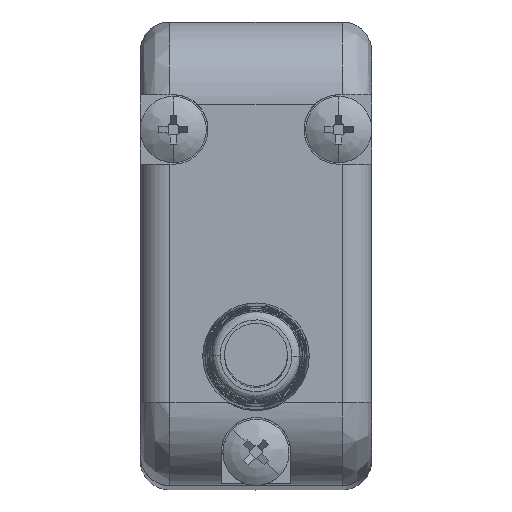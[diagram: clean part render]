
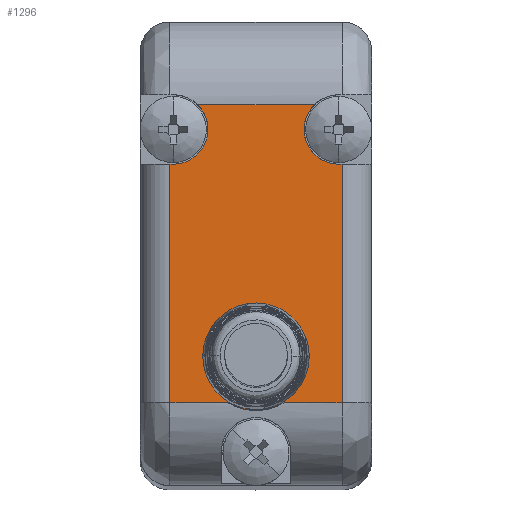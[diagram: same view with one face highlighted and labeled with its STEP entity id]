
A CAD part, top view. The second image highlights one B-rep face of the part: STEP entity #1296.
In plain terms, the highlighted planar face has unit normal (0, 0, 1).
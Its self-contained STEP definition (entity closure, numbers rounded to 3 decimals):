
#26 = CARTESIAN_POINT ( 'NONE',  ( 37.93, 8.575, 58.281 ) ) ;
#38 = EDGE_CURVE ( 'NONE', #6906, #7569, #7157, .T. ) ;
#143 = DIRECTION ( 'NONE',  ( 0., 0., -1. ) ) ;
#183 = CARTESIAN_POINT ( 'NONE',  ( 37.93, -0.425, 58.281 ) ) ;
#193 = DIRECTION ( 'NONE',  ( 0., 1., 0. ) ) ;
#276 = ORIENTED_EDGE ( 'NONE', *, *, #10139, .T. ) ;
#282 = EDGE_LOOP ( 'NONE', ( #9560, #6132 ) ) ;
#359 = DIRECTION ( 'NONE',  ( 0., 0., -1. ) ) ;
#383 = CARTESIAN_POINT ( 'NONE',  ( 48.33, 8.575, 58.281 ) ) ;
#483 = DIRECTION ( 'NONE',  ( -1., 0., 0. ) ) ;
#693 = AXIS2_PLACEMENT_3D ( 'NONE', #8354, #143, #3908 ) ;
#729 = DIRECTION ( 'NONE',  ( 0., 0., 1. ) ) ;
#776 = VERTEX_POINT ( 'NONE', #11369 ) ;
#945 = VERTEX_POINT ( 'NONE', #8670 ) ;
#970 = DIRECTION ( 'NONE',  ( -1., 0., 0. ) ) ;
#1143 = DIRECTION ( 'NONE',  ( -1., 0., 0. ) ) ;
#1222 = AXIS2_PLACEMENT_3D ( 'NONE', #1274, #7619, #1384 ) ;
#1274 = CARTESIAN_POINT ( 'NONE',  ( 43.13, 2.375, 58.281 ) ) ;
#1296 = ADVANCED_FACE ( 'NONE', ( #6594, #1869 ), #5527, .F. ) ;
#1321 = EDGE_CURVE ( 'NONE', #6589, #9214, #2036, .T. ) ;
#1384 = DIRECTION ( 'NONE',  ( -1., 0., 0. ) ) ;
#1641 = DIRECTION ( 'NONE',  ( 1., 0., 0. ) ) ;
#1758 = DIRECTION ( 'NONE',  ( 0., 0., 1. ) ) ;
#1869 = FACE_BOUND ( 'NONE', #282, .T. ) ;
#2008 = CARTESIAN_POINT ( 'NONE',  ( 44.828, -0.425, 58.281 ) ) ;
#2036 = LINE ( 'NONE', #4625, #9625 ) ;
#2039 = CARTESIAN_POINT ( 'NONE',  ( 46.349, 2.34, 58.281 ) ) ;
#2120 = DIRECTION ( 'NONE',  ( -1., 0., 0. ) ) ;
#2386 = ORIENTED_EDGE ( 'NONE', *, *, #9967, .T. ) ;
#2415 = CIRCLE ( 'NONE', #2986, 2.1 ) ;
#2471 = CARTESIAN_POINT ( 'NONE',  ( 38.13, 16.075, 58.281 ) ) ;
#2571 = VERTEX_POINT ( 'NONE', #3307 ) ;
#2649 = DIRECTION ( 'NONE',  ( 1., 0., 0. ) ) ;
#2702 = DIRECTION ( 'NONE',  ( 0., 0., -1. ) ) ;
#2898 = VECTOR ( 'NONE', #5058, 1000. ) ;
#2902 = CIRCLE ( 'NONE', #7130, 2.1 ) ;
#2986 = AXIS2_PLACEMENT_3D ( 'NONE', #11653, #729, #2649 ) ;
#3065 = CARTESIAN_POINT ( 'NONE',  ( 43.13, -0.425, 58.281 ) ) ;
#3114 = CARTESIAN_POINT ( 'NONE',  ( 49.13, 13.975, 58.281 ) ) ;
#3180 = EDGE_CURVE ( 'NONE', #2571, #4608, #7629, .T. ) ;
#3221 = EDGE_CURVE ( 'NONE', #4608, #776, #11055, .T. ) ;
#3233 = CARTESIAN_POINT ( 'NONE',  ( 38.13, 16.075, 58.281 ) ) ;
#3307 = CARTESIAN_POINT ( 'NONE',  ( 41.431, -0.425, 58.281 ) ) ;
#3375 = CARTESIAN_POINT ( 'NONE',  ( 38.13, 13.975, 58.281 ) ) ;
#3669 = VECTOR ( 'NONE', #8996, 1000. ) ;
#3806 = CARTESIAN_POINT ( 'NONE',  ( 43.13, -0.425, 58.281 ) ) ;
#3815 = EDGE_CURVE ( 'NONE', #9839, #11514, #7579, .T. ) ;
#3908 = DIRECTION ( 'NONE',  ( -1., 0., 0. ) ) ;
#4021 = DIRECTION ( 'NONE',  ( 1., 0., 0. ) ) ;
#4256 = EDGE_CURVE ( 'NONE', #7569, #6906, #5856, .T. ) ;
#4408 = ORIENTED_EDGE ( 'NONE', *, *, #5430, .F. ) ;
#4442 = CIRCLE ( 'NONE', #10759, 2.1 ) ;
#4521 = CARTESIAN_POINT ( 'NONE',  ( 48.33, -0.425, 58.281 ) ) ;
#4561 = CARTESIAN_POINT ( 'NONE',  ( 40.23, 16.075, 58.281 ) ) ;
#4608 = VERTEX_POINT ( 'NONE', #183 ) ;
#4625 = CARTESIAN_POINT ( 'NONE',  ( 43.13, 17.575, 58.281 ) ) ;
#5035 = AXIS2_PLACEMENT_3D ( 'NONE', #9223, #2702, #970 ) ;
#5058 = DIRECTION ( 'NONE',  ( 0., -1., 0. ) ) ;
#5081 = VECTOR ( 'NONE', #10383, 1000. ) ;
#5430 = EDGE_CURVE ( 'NONE', #11514, #2571, #7960, .T. ) ;
#5527 = PLANE ( 'NONE',  #5035 ) ;
#5797 = CARTESIAN_POINT ( 'NONE',  ( 39.91, 2.411, 58.281 ) ) ;
#5856 = CIRCLE ( 'NONE', #693, 3.219 ) ;
#6013 = CARTESIAN_POINT ( 'NONE',  ( 48.13, 13.975, 58.281 ) ) ;
#6132 = ORIENTED_EDGE ( 'NONE', *, *, #4256, .T. ) ;
#6237 = EDGE_LOOP ( 'NONE', ( #11182, #4408, #6955, #10770, #2386, #9945, #11640, #6822, #11563, #276, #11655 ) ) ;
#6589 = VERTEX_POINT ( 'NONE', #11693 ) ;
#6593 = CARTESIAN_POINT ( 'NONE',  ( 43.13, 2.375, 58.281 ) ) ;
#6594 = FACE_OUTER_BOUND ( 'NONE', #6237, .T. ) ;
#6615 = VECTOR ( 'NONE', #193, 1000. ) ;
#6747 = CARTESIAN_POINT ( 'NONE',  ( 46.66, 17.575, 58.281 ) ) ;
#6822 = ORIENTED_EDGE ( 'NONE', *, *, #11042, .F. ) ;
#6894 = DIRECTION ( 'NONE',  ( 0., 0., 1. ) ) ;
#6906 = VERTEX_POINT ( 'NONE', #5797 ) ;
#6955 = ORIENTED_EDGE ( 'NONE', *, *, #3815, .F. ) ;
#7130 = AXIS2_PLACEMENT_3D ( 'NONE', #3233, #6894, #4021 ) ;
#7157 = CIRCLE ( 'NONE', #1222, 3.219 ) ;
#7260 = EDGE_CURVE ( 'NONE', #9214, #10752, #2415, .T. ) ;
#7308 = VECTOR ( 'NONE', #483, 1000. ) ;
#7569 = VERTEX_POINT ( 'NONE', #2039 ) ;
#7579 = LINE ( 'NONE', #3806, #9303 ) ;
#7619 = DIRECTION ( 'NONE',  ( 0., 0., -1. ) ) ;
#7629 = LINE ( 'NONE', #3065, #5081 ) ;
#7755 = VERTEX_POINT ( 'NONE', #4561 ) ;
#7960 = CIRCLE ( 'NONE', #8544, 3.275 ) ;
#8354 = CARTESIAN_POINT ( 'NONE',  ( 43.13, 2.375, 58.281 ) ) ;
#8544 = AXIS2_PLACEMENT_3D ( 'NONE', #6593, #359, #1143 ) ;
#8670 = CARTESIAN_POINT ( 'NONE',  ( 48.33, 13.975, 58.281 ) ) ;
#8812 = CARTESIAN_POINT ( 'NONE',  ( 37.13, 13.975, 58.281 ) ) ;
#8996 = DIRECTION ( 'NONE',  ( -1., 0., 0. ) ) ;
#9214 = VERTEX_POINT ( 'NONE', #6747 ) ;
#9223 = CARTESIAN_POINT ( 'NONE',  ( 48.33, -0.425, 58.281 ) ) ;
#9303 = VECTOR ( 'NONE', #2120, 1000. ) ;
#9560 = ORIENTED_EDGE ( 'NONE', *, *, #38, .T. ) ;
#9585 = LINE ( 'NONE', #3114, #7308 ) ;
#9606 = LINE ( 'NONE', #383, #2898 ) ;
#9625 = VECTOR ( 'NONE', #10186, 1000. ) ;
#9815 = VERTEX_POINT ( 'NONE', #3375 ) ;
#9839 = VERTEX_POINT ( 'NONE', #4521 ) ;
#9945 = ORIENTED_EDGE ( 'NONE', *, *, #7260, .F. ) ;
#9967 = EDGE_CURVE ( 'NONE', #945, #10752, #9585, .T. ) ;
#10139 = EDGE_CURVE ( 'NONE', #9815, #776, #11644, .T. ) ;
#10186 = DIRECTION ( 'NONE',  ( 1., 0., 0. ) ) ;
#10383 = DIRECTION ( 'NONE',  ( -1., 0., 0. ) ) ;
#10752 = VERTEX_POINT ( 'NONE', #6013 ) ;
#10759 = AXIS2_PLACEMENT_3D ( 'NONE', #2471, #1758, #1641 ) ;
#10770 = ORIENTED_EDGE ( 'NONE', *, *, #10810, .F. ) ;
#10810 = EDGE_CURVE ( 'NONE', #945, #9839, #9606, .T. ) ;
#10916 = EDGE_CURVE ( 'NONE', #9815, #7755, #4442, .T. ) ;
#11042 = EDGE_CURVE ( 'NONE', #7755, #6589, #2902, .T. ) ;
#11055 = LINE ( 'NONE', #26, #6615 ) ;
#11182 = ORIENTED_EDGE ( 'NONE', *, *, #3180, .F. ) ;
#11369 = CARTESIAN_POINT ( 'NONE',  ( 37.93, 13.975, 58.281 ) ) ;
#11514 = VERTEX_POINT ( 'NONE', #2008 ) ;
#11563 = ORIENTED_EDGE ( 'NONE', *, *, #10916, .F. ) ;
#11640 = ORIENTED_EDGE ( 'NONE', *, *, #1321, .F. ) ;
#11644 = LINE ( 'NONE', #8812, #3669 ) ;
#11653 = CARTESIAN_POINT ( 'NONE',  ( 48.13, 16.075, 58.281 ) ) ;
#11655 = ORIENTED_EDGE ( 'NONE', *, *, #3221, .F. ) ;
#11693 = CARTESIAN_POINT ( 'NONE',  ( 39.599, 17.575, 58.281 ) ) ;
